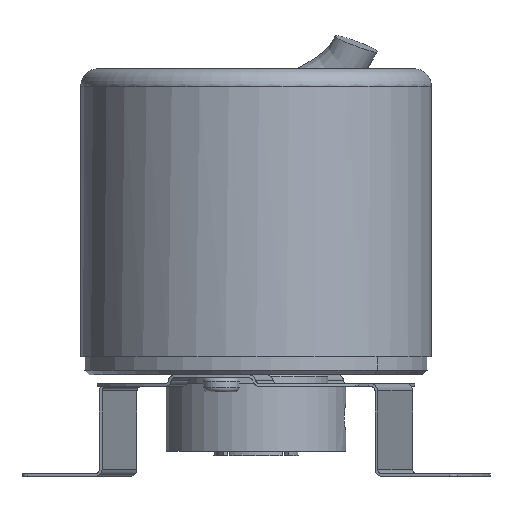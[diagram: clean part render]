
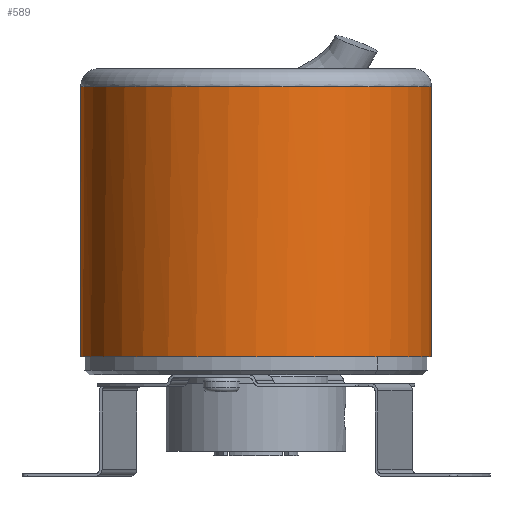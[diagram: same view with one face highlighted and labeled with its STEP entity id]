
A CAD part, front view. The second image highlights one B-rep face of the part: STEP entity #589.
In plain terms, the highlighted cylindrical face has radius 19.5 mm (diameter 39 mm), a full revolution.
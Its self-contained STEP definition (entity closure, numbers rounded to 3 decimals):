
#248=CYLINDRICAL_SURFACE('',#4201,19.5);
#589=ADVANCED_FACE('',(#883,#884),#248,.T.);
#883=FACE_BOUND('',#1009,.T.);
#884=FACE_BOUND('',#1010,.T.);
#1009=EDGE_LOOP('',(#1462));
#1010=EDGE_LOOP('',(#1463,#1464,#1465,#1466));
#1462=ORIENTED_EDGE('',*,*,#2896,.T.);
#1463=ORIENTED_EDGE('',*,*,#2897,.T.);
#1464=ORIENTED_EDGE('',*,*,#2898,.T.);
#1465=ORIENTED_EDGE('',*,*,#2899,.T.);
#1466=ORIENTED_EDGE('',*,*,#2900,.T.);
#2476=VERTEX_POINT('',#6440);
#2477=VERTEX_POINT('',#6442);
#2478=VERTEX_POINT('',#6443);
#2479=VERTEX_POINT('',#6445);
#2480=VERTEX_POINT('',#6447);
#2896=EDGE_CURVE('',#2476,#2476,#3397,.T.);
#2897=EDGE_CURVE('',#2477,#2478,#3398,.T.);
#2898=EDGE_CURVE('',#2478,#2479,#3647,.T.);
#2899=EDGE_CURVE('',#2479,#2480,#3399,.T.);
#2900=EDGE_CURVE('',#2480,#2477,#3648,.T.);
#3397=CIRCLE('',#4198,19.5);
#3398=CIRCLE('',#4199,19.5);
#3399=CIRCLE('',#4200,19.5);
#3647=LINE('',#6444,#3908);
#3648=LINE('',#6448,#3909);
#3908=VECTOR('',#4804,1.);
#3909=VECTOR('',#4807,1.);
#4198=AXIS2_PLACEMENT_3D('',#6439,#4800,#4801);
#4199=AXIS2_PLACEMENT_3D('',#6441,#4802,#4803);
#4200=AXIS2_PLACEMENT_3D('',#6446,#4805,#4806);
#4201=AXIS2_PLACEMENT_3D('',#6449,#4808,#4809);
#4800=DIRECTION('',(0.,0.,1.));
#4801=DIRECTION('',(1.,0.,0.));
#4802=DIRECTION('',(0.,0.,-1.));
#4803=DIRECTION('',(-1.,0.,0.));
#4804=DIRECTION('',(0.,0.,1.));
#4805=DIRECTION('',(0.,0.,-1.));
#4806=DIRECTION('',(-1.,0.,0.));
#4807=DIRECTION('',(0.,0.,-1.));
#4808=DIRECTION('',(0.,0.,1.));
#4809=DIRECTION('',(1.,0.,0.));
#6439=CARTESIAN_POINT('',(-28.953,-7.454,-39.));
#6440=CARTESIAN_POINT('',(-9.453,-7.454,-39.));
#6441=CARTESIAN_POINT('',(-28.953,-7.454,-20.661));
#6442=CARTESIAN_POINT('',(-36.459,10.544,-20.661));
#6443=CARTESIAN_POINT('',(-21.446,10.544,-20.661));
#6444=CARTESIAN_POINT('',(-21.446,10.544,-39.));
#6445=CARTESIAN_POINT('',(-21.446,10.544,-9.));
#6446=CARTESIAN_POINT('',(-28.953,-7.454,-9.));
#6447=CARTESIAN_POINT('',(-36.459,10.544,-9.));
#6448=CARTESIAN_POINT('',(-36.459,10.544,-39.));
#6449=CARTESIAN_POINT('',(-28.953,-7.454,-39.));
